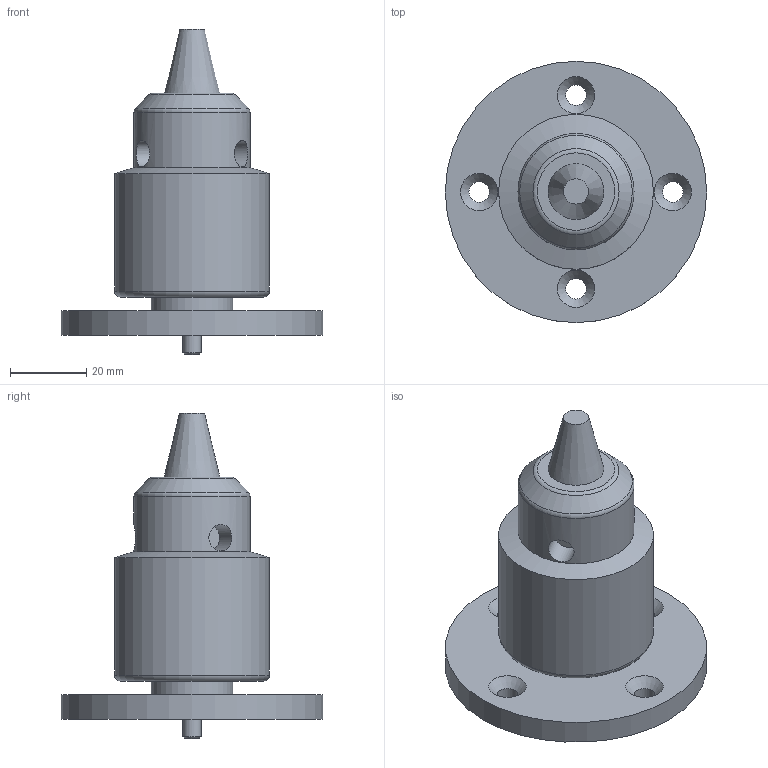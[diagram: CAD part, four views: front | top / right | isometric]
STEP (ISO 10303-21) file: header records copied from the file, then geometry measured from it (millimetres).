
FILE_DESCRIPTION((''),'2;1');
FILE_NAME('F:\CAD files\Itr\3D MARKETING MODELS\GRIPS\G1022\G1022-3.stp','2017-06-21T16:53:57',('mlampen'),(''),'Autodesk Inventor 2010','Autodesk Inventor 2010','');
FILE_SCHEMA(('AUTOMOTIVE_DESIGN { 1 0 10303 214 1 1 1 1 }'));
Length unit declared in the file: inch
Products named in the file (1): Part2
Bounding box: 68.58 x 68.58 x 85.28 mm (x, y, z)
Volume: 81726.7 mm3; surface area: 17665.3 mm2
Topology: 1 solids, 1 shells, 32 faces, 70 edges, 47 vertices
Faces by surface type: cylinder 12, plane 9, cone 8, torus 3
Full cylindrical faces by diameter (mm): 4.724 x1, 5.41 x4, 6.947 x3, 21.336 x1, 30.48 x1, 40.64 x1, 68.58 x1
Entity records: 835 total; most frequent: CARTESIAN_POINT 214, DIRECTION 130, ORIENTED_EDGE 76, EDGE_LOOP 70, AXIS2_PLACEMENT_3D 65, VERTEX_POINT 38, EDGE_CURVE 38, FACE_BOUND 38
